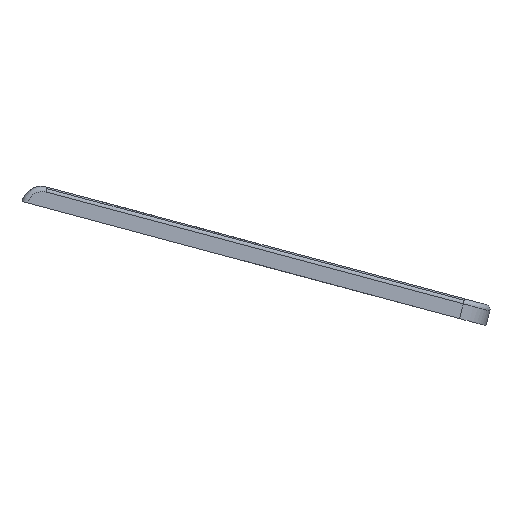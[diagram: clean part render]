
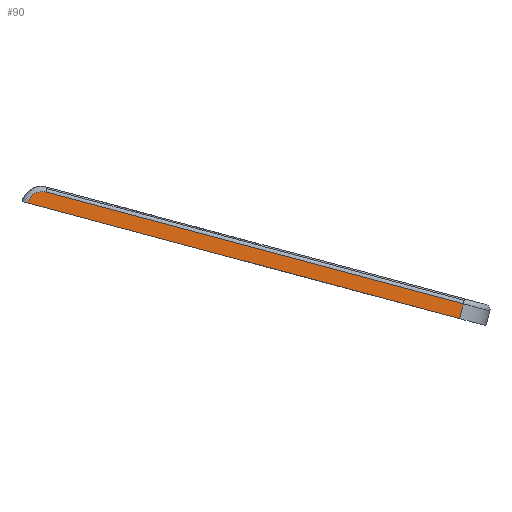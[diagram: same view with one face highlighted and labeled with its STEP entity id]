
A CAD part, left-side view. The second image highlights one B-rep face of the part: STEP entity #90.
In plain terms, the highlighted planar face has unit normal (-0.992, -0.125, -0.033).
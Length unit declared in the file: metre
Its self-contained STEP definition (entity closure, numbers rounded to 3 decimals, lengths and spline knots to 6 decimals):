
#90=ADVANCED_FACE('0:71',(#211),#212,.T.);
#211=FACE_OUTER_BOUND('',#667,.T.);
#212=PLANE('',#668);
#667=EDGE_LOOP('',(#1788,#1789,#1790,#1791));
#668=AXIS2_PLACEMENT_3D('',#1792,#1793,#1794);
#1788=ORIENTED_EDGE('',*,*,#2109,.F.);
#1789=ORIENTED_EDGE('',*,*,#2131,.T.);
#1790=ORIENTED_EDGE('',*,*,#2132,.T.);
#1791=ORIENTED_EDGE('',*,*,#2046,.F.);
#1792=CARTESIAN_POINT('',(0.021635,-0.099269,-0.006681));
#1793=DIRECTION('',(-0.992,-0.125,-0.033));
#1794=DIRECTION('',(0.129,-0.958,-0.257));
#2046=EDGE_CURVE('0:206',#2276,#2278,#2279,.T.);
#2109=EDGE_CURVE('0:188',#2386,#2276,#2388,.T.);
#2131=EDGE_CURVE('0:260',#2386,#2415,#2416,.T.);
#2132=EDGE_CURVE('0:263',#2415,#2278,#2417,.T.);
#2276=VERTEX_POINT('',#2602);
#2278=VERTEX_POINT('',#2604);
#2279=LINE('',#2605,#2606);
#2386=VERTEX_POINT('',#2731);
#2388=ELLIPSE('',#2744,0.001513,0.0015);
#2415=VERTEX_POINT('',#2813);
#2416=LINE('',#2814,#2815);
#2417=LINE('',#2816,#2817);
#2602=CARTESIAN_POINT('',(0.018872,-0.079176,0.000256));
#2604=CARTESIAN_POINT('',(0.024405,-0.120201,-0.010737));
#2605=CARTESIAN_POINT('',(0.022432,-0.105566,-0.006816));
#2606=VECTOR('',#3030,1.);
#2731=CARTESIAN_POINT('',(0.018677,-0.077339,-0.000805));
#2744=AXIS2_PLACEMENT_3D('',#3178,#3179,#3180);
#2813=CARTESIAN_POINT('',(0.024405,-0.119813,-0.012186));
#2814=CARTESIAN_POINT('',(0.021242,-0.096356,-0.005901));
#2815=VECTOR('',#3230,1.);
#2816=CARTESIAN_POINT('',(0.024405,-0.119813,-0.012186));
#2817=VECTOR('',#3231,1.0);
#3030=DIRECTION('',(0.129,-0.958,-0.257));
#3178=CARTESIAN_POINT('',(0.018872,-0.078788,-0.001193));
#3179=DIRECTION('',(0.992,0.125,0.033));
#3180=DIRECTION('',(-0.129,0.958,0.257));
#3230=DIRECTION('',(0.129,-0.958,-0.257));
#3231=DIRECTION('',(0.,-0.259,0.966));
